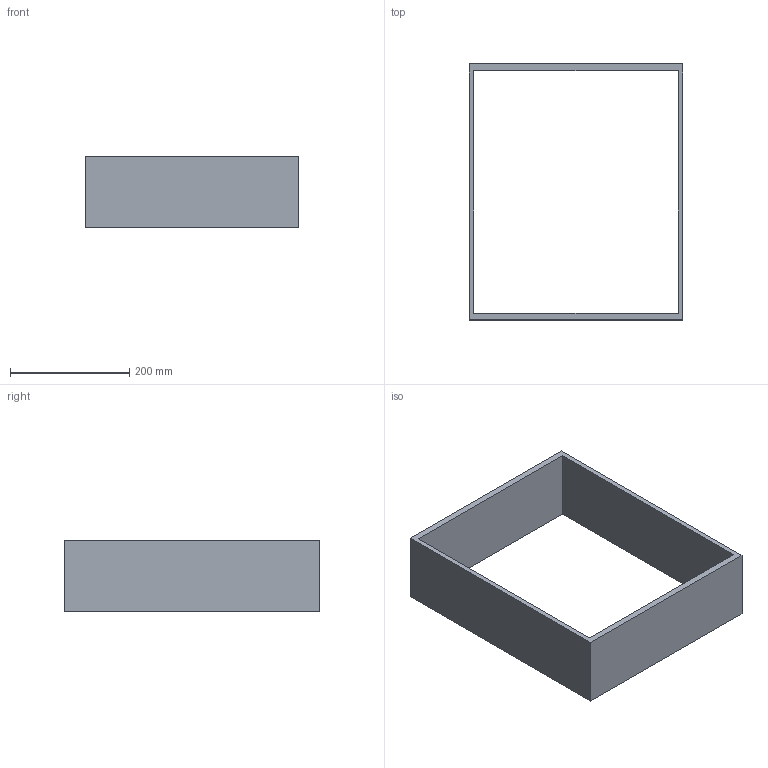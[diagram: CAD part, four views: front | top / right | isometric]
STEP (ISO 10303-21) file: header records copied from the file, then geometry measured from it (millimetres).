
FILE_DESCRIPTION (( 'STEP AP214' ), '1' );
FILE_NAME ('Vario Multi H120 NL450_B450_16 mm_Alu-Buche.step', '2010-10-08T09:47:24', ( 'grass' ), ( '' ), 'SwSTEP 2.0', 'SolidWorks 2010', '' );
FILE_SCHEMA (( 'AUTOMOTIVE_DESIGN' ));
Length unit declared in the file: millimetre
Products named in the file (1): Vario Multi H120 NL450_B450_16 mm_Alu-Buche
Bounding box: 358 x 429 x 120 mm (x, y, z)
Volume: 1726560 mm3; surface area: 397416 mm2
Topology: 1 solids, 1 shells, 10 faces, 24 edges, 16 vertices
Faces by surface type: plane 10
Entity records: 326 total; most frequent: CARTESIAN_POINT 51, ORIENTED_EDGE 48, DIRECTION 46, EDGE_CURVE 24, LINE 24, VECTOR 24, VERTEX_POINT 16, EDGE_LOOP 12
